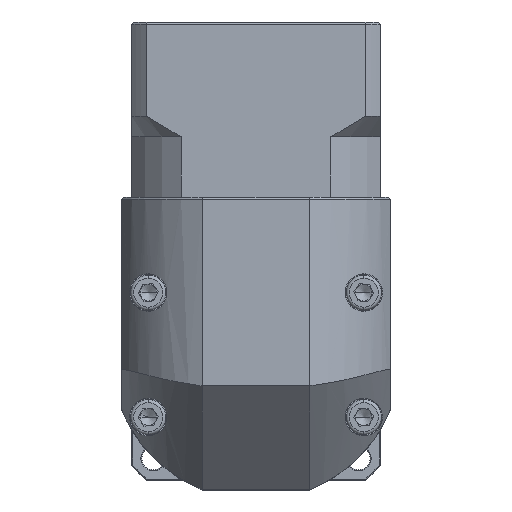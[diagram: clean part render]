
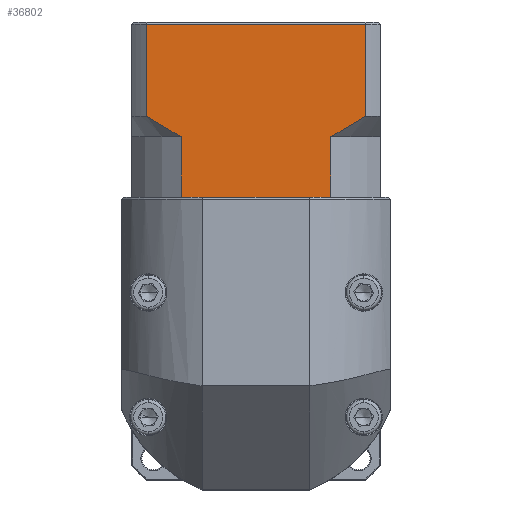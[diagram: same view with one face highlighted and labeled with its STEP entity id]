
A CAD part, top view. The second image highlights one B-rep face of the part: STEP entity #36802.
In plain terms, the highlighted planar face has unit normal (0, 0, 1).
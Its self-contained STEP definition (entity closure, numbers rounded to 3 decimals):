
#900 = VERTEX_POINT ( 'NONE', #40074 ) ;
#1174 = FACE_OUTER_BOUND ( 'NONE', #89623, .T. ) ;
#1974 = CARTESIAN_POINT ( 'NONE',  ( -18.431, 115.989, 53.895 ) ) ;
#2858 = CARTESIAN_POINT ( 'NONE',  ( -10.001, 115.989, 53.895 ) ) ;
#3106 = CARTESIAN_POINT ( 'NONE',  ( -18.431, 115.989, 53.895 ) ) ;
#4122 = DIRECTION ( 'NONE',  ( 0., -1., 0. ) ) ;
#5052 = ORIENTED_EDGE ( 'NONE', *, *, #108842, .T. ) ;
#6745 = CARTESIAN_POINT ( 'NONE',  ( -60.178, 119.216, 53.895 ) ) ;
#11007 = VECTOR ( 'NONE', #113819, 1000. ) ;
#12996 = EDGE_CURVE ( 'NONE', #95010, #92836, #61250, .T. ) ;
#13884 = CARTESIAN_POINT ( 'NONE',  ( -66.459, 143.689, 53.895 ) ) ;
#14343 = DIRECTION ( 'NONE',  ( 1., 0., 0. ) ) ;
#19178 = VERTEX_POINT ( 'NONE', #73752 ) ;
#20760 = LINE ( 'NONE', #2858, #31418 ) ;
#21284 = DIRECTION ( 'NONE',  ( 0., -1., 0. ) ) ;
#21555 = ORIENTED_EDGE ( 'NONE', *, *, #48498, .T. ) ;
#22272 = AXIS2_PLACEMENT_3D ( 'NONE', #13884, #60764, #32619 ) ;
#22635 = CARTESIAN_POINT ( 'NONE',  ( -15.549, 117.54, 53.895 ) ) ;
#25322 = CARTESIAN_POINT ( 'NONE',  ( -62.916, 143.189, 53.895 ) ) ;
#25855 = CARTESIAN_POINT ( 'NONE',  ( -62.916, 120.989, 53.895 ) ) ;
#27166 = ORIENTED_EDGE ( 'NONE', *, *, #112813, .F. ) ;
#28525 = DIRECTION ( 'NONE',  ( 0., 1., 0. ) ) ;
#30528 = LINE ( 'NONE', #41737, #115742 ) ;
#31418 = VECTOR ( 'NONE', #4122, 1000. ) ;
#32078 = VECTOR ( 'NONE', #14343, 1000. ) ;
#32619 = DIRECTION ( 'NONE',  ( 0., 1., 0. ) ) ;
#33266 = CARTESIAN_POINT ( 'NONE',  ( -66.459, 101.489, 53.895 ) ) ;
#35697 = CARTESIAN_POINT ( 'NONE',  ( -57.37, 117.541, 53.895 ) ) ;
#36802 = ADVANCED_FACE ( 'NONE', ( #1174 ), #42401, .F. ) ;
#39881 = EDGE_CURVE ( 'NONE', #19178, #105598, #84041, .T. ) ;
#40074 = CARTESIAN_POINT ( 'NONE',  ( -53.495, 101.489, 53.895 ) ) ;
#41732 = CARTESIAN_POINT ( 'NONE',  ( -10.001, 120.989, 53.895 ) ) ;
#41737 = CARTESIAN_POINT ( 'NONE',  ( -54.487, 115.989, 53.895 ) ) ;
#42401 = PLANE ( 'NONE',  #22272 ) ;
#44932 = ORIENTED_EDGE ( 'NONE', *, *, #59186, .T. ) ;
#45727 = B_SPLINE_CURVE_WITH_KNOTS ( 'NONE', 3,
 ( #25855, #65055, #6745, #35697, #84168, #84571 ),
 .UNSPECIFIED., .F., .F.,
 ( 4, 2, 4 ),
 ( 0.052, 0.057, 0.062 ),
 .UNSPECIFIED. ) ;
#46452 = VERTEX_POINT ( 'NONE', #104030 ) ;
#48498 = EDGE_CURVE ( 'NONE', #900, #19178, #53495, .T. ) ;
#48732 = DIRECTION ( 'NONE',  ( 1., 0., 0. ) ) ;
#52633 = LINE ( 'NONE', #97294, #102947 ) ;
#53495 = LINE ( 'NONE', #120774, #32078 ) ;
#59186 = EDGE_CURVE ( 'NONE', #46452, #900, #52633, .T. ) ;
#59694 = DIRECTION ( 'NONE',  ( 0., 1., 0. ) ) ;
#60764 = DIRECTION ( 'NONE',  ( 0., 0., -1. ) ) ;
#61250 = LINE ( 'NONE', #68118, #68787 ) ;
#61767 = CARTESIAN_POINT ( 'NONE',  ( -16.974, 116.739, 53.895 ) ) ;
#63401 = EDGE_CURVE ( 'NONE', #95010, #88022, #45727, .T. ) ;
#65055 = CARTESIAN_POINT ( 'NONE',  ( -61.556, 120.09, 53.895 ) ) ;
#67224 = CARTESIAN_POINT ( 'NONE',  ( -18.431, 101.489, 53.895 ) ) ;
#67984 = EDGE_CURVE ( 'NONE', #46452, #88022, #30528, .T. ) ;
#68118 = CARTESIAN_POINT ( 'NONE',  ( -62.916, 115.989, 53.895 ) ) ;
#68787 = VECTOR ( 'NONE', #28525, 1000. ) ;
#70413 = ORIENTED_EDGE ( 'NONE', *, *, #76668, .T. ) ;
#73752 = CARTESIAN_POINT ( 'NONE',  ( -19.422, 101.489, 53.895 ) ) ;
#75095 = ORIENTED_EDGE ( 'NONE', *, *, #83925, .F. ) ;
#76041 = B_SPLINE_CURVE_WITH_KNOTS ( 'NONE', 3,
 ( #3106, #61767, #22635, #119603, #90298, #41732 ),
 .UNSPECIFIED., .F., .F.,
 ( 4, 2, 4 ),
 ( 0.1, 0.104, 0.109 ),
 .UNSPECIFIED. ) ;
#76668 = EDGE_CURVE ( 'NONE', #110507, #92836, #85617, .T. ) ;
#83925 = EDGE_CURVE ( 'NONE', #110507, #96716, #20760, .T. ) ;
#84041 = LINE ( 'NONE', #33266, #112973 ) ;
#84168 = CARTESIAN_POINT ( 'NONE',  ( -55.939, 116.737, 53.895 ) ) ;
#84571 = CARTESIAN_POINT ( 'NONE',  ( -54.487, 115.989, 53.895 ) ) ;
#85304 = CARTESIAN_POINT ( 'NONE',  ( -66.459, 143.189, 53.895 ) ) ;
#85617 = LINE ( 'NONE', #85304, #11007 ) ;
#86602 = CARTESIAN_POINT ( 'NONE',  ( -10.001, 120.989, 53.895 ) ) ;
#88022 = VERTEX_POINT ( 'NONE', #121989 ) ;
#89623 = EDGE_LOOP ( 'NONE', ( #75095, #70413, #123325, #102543, #124926, #44932, #21555, #109940, #27166, #5052 ) ) ;
#90298 = CARTESIAN_POINT ( 'NONE',  ( -11.364, 120.088, 53.895 ) ) ;
#92836 = VERTEX_POINT ( 'NONE', #25322 ) ;
#95010 = VERTEX_POINT ( 'NONE', #118226 ) ;
#95070 = CARTESIAN_POINT ( 'NONE',  ( -10.001, 143.189, 53.895 ) ) ;
#96716 = VERTEX_POINT ( 'NONE', #86602 ) ;
#97294 = CARTESIAN_POINT ( 'NONE',  ( -66.459, 101.489, 53.895 ) ) ;
#101111 = VERTEX_POINT ( 'NONE', #1974 ) ;
#102543 = ORIENTED_EDGE ( 'NONE', *, *, #63401, .T. ) ;
#102947 = VECTOR ( 'NONE', #48732, 1000. ) ;
#103862 = DIRECTION ( 'NONE',  ( 1., 0., 0. ) ) ;
#104030 = CARTESIAN_POINT ( 'NONE',  ( -54.487, 101.489, 53.895 ) ) ;
#105598 = VERTEX_POINT ( 'NONE', #67224 ) ;
#108471 = CARTESIAN_POINT ( 'NONE',  ( -18.431, 115.989, 53.895 ) ) ;
#108842 = EDGE_CURVE ( 'NONE', #101111, #96716, #76041, .T. ) ;
#109940 = ORIENTED_EDGE ( 'NONE', *, *, #39881, .T. ) ;
#110507 = VERTEX_POINT ( 'NONE', #95070 ) ;
#112813 = EDGE_CURVE ( 'NONE', #101111, #105598, #117454, .T. ) ;
#112973 = VECTOR ( 'NONE', #103862, 1000. ) ;
#113819 = DIRECTION ( 'NONE',  ( -1., 0., 0. ) ) ;
#114404 = VECTOR ( 'NONE', #21284, 1000. ) ;
#115742 = VECTOR ( 'NONE', #59694, 1000. ) ;
#117454 = LINE ( 'NONE', #108471, #114404 ) ;
#118226 = CARTESIAN_POINT ( 'NONE',  ( -62.916, 120.989, 53.895 ) ) ;
#119603 = CARTESIAN_POINT ( 'NONE',  ( -12.744, 119.214, 53.895 ) ) ;
#120774 = CARTESIAN_POINT ( 'NONE',  ( -66.459, 101.489, 53.895 ) ) ;
#121989 = CARTESIAN_POINT ( 'NONE',  ( -54.487, 115.989, 53.895 ) ) ;
#123325 = ORIENTED_EDGE ( 'NONE', *, *, #12996, .F. ) ;
#124926 = ORIENTED_EDGE ( 'NONE', *, *, #67984, .F. ) ;
